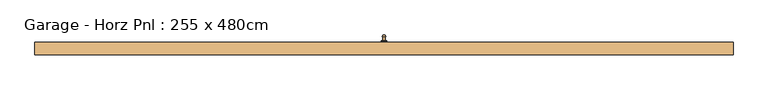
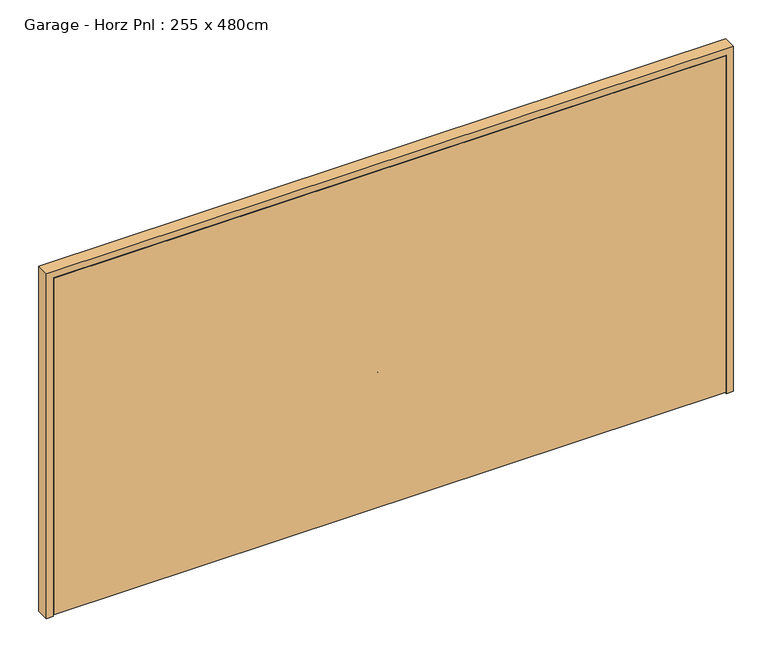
"""IFC4 building model written with IfcOpenShell, lengths in millimetres: door geometry, Garage - Horz Pnl : 255 x 480cm."""

import ifcopenshell
import ifcopenshell.guid

model = None  # the IFC model being written
_history = None  # IfcOwnerHistory: only IFC2X3 demands one
_inside = {}  # id of a spatial element -> (the spatial element, [elements in it])
_under = {}  # id of a project, library or spatial element -> (it, [spatial elements below it])
_declared = {}  # id of a project -> (the project, [libraries it declares])
_typed = {}  # id of a type object -> (the type object, [elements of that type])
_made_of = {}  # id of a material, layer set ... -> (it, [elements and type objects made of it])


def new_model(schema):
    """Start an empty IFC model of exactly this schema.

    Asked for "IFC4X3", IfcOpenShell would pick the latest addendum, in which some entities
    have other attributes; the version numbers below select the first issue.
    IFC2X3 requires an IfcOwnerHistory on every rooted entity: one is made here for all.
    """
    global model, _history
    if schema == "IFC4X3":
        model = ifcopenshell.file(schema_version=(4, 3, 0, 0))
    else:
        model = ifcopenshell.file(schema=schema)
    _inside.clear()
    _under.clear()
    _declared.clear()
    _typed.clear()
    _made_of.clear()
    _history = None
    if model.schema == "IFC2X3":
        org = make("IfcOrganization", Name="unknown")
        user = make(
            "IfcPersonAndOrganization",
            ThePerson=make("IfcPerson", FamilyName="unknown"),
            TheOrganization=org,
        )
        app = make(
            "IfcApplication",
            ApplicationDeveloper=org,
            Version="unknown",
            ApplicationFullName="unknown",
            ApplicationIdentifier="unknown",
        )
        _history = make(
            "IfcOwnerHistory",
            OwningUser=user,
            OwningApplication=app,
            ChangeAction="ADDED",
            CreationDate=0,
        )
    return model


def make(cls, **values):
    """One entity of the class cls with the attributes given. An attribute that is None is left unset."""
    return model.create_entity(
        cls, **{name: value for name, value in values.items() if value is not None}
    )


def rooted(cls, **values):
    """An entity with a GlobalId (a new one), such as an element, a storey or a relation."""
    return make(cls, GlobalId=ifcopenshell.guid.new(), OwnerHistory=_history, **values)


def si_unit(unit_type, name, prefix=None):
    """IfcSIUnit, for example si_unit("LENGTHUNIT", "METRE", prefix="MILLI")."""
    return make("IfcSIUnit", UnitType=unit_type, Prefix=prefix, Name=name)


def assignment(units):
    """IfcUnitAssignment: the units of a project."""
    return None if units is None else make("IfcUnitAssignment", Units=units)


def point(xyz):
    """IfcCartesianPoint."""
    return None if xyz is None else make("IfcCartesianPoint", Coordinates=xyz)


def direction(xyz):
    """IfcDirection."""
    return None if xyz is None else make("IfcDirection", DirectionRatios=xyz)


def frame(location, z_axis=None, x_axis=None):
    """IfcAxis2Placement3D, a coordinate frame: its origin and axes. An axis left out is left unset."""
    return make(
        "IfcAxis2Placement3D",
        Location=point(location),
        Axis=direction(z_axis),
        RefDirection=direction(x_axis),
    )


def frame_2d(location, x_axis=None):
    """IfcAxis2Placement2D, a coordinate frame in the plane: its origin and x axis."""
    return make(
        "IfcAxis2Placement2D", Location=point(location), RefDirection=direction(x_axis)
    )


def origin():
    """The frame at (0, 0, 0) with its axes left unset."""
    return frame((0.0, 0.0, 0.0))


def place(relative_to, where):
    """IfcLocalPlacement: puts the frame where relative to a parent placement (None: the world)."""
    return make(
        "IfcLocalPlacement", PlacementRelTo=relative_to, RelativePlacement=where
    )


def context(
    kind, dimensions, precision=None, world=None, true_north=None, identifier=None
):
    """IfcGeometricRepresentationContext, for example the 3D "Model" context."""
    return make(
        "IfcGeometricRepresentationContext",
        ContextIdentifier=identifier,
        ContextType=kind,
        CoordinateSpaceDimension=dimensions,
        Precision=precision,
        WorldCoordinateSystem=world,
        TrueNorth=true_north,
    )


def project(units=None, contexts=None):
    """IfcProject with its units and contexts."""
    return rooted(
        "IfcProject",
        Name="project",
        RepresentationContexts=contexts,
        UnitsInContext=assignment(units),
    )


def spatial(cls, under=None, at=None, **own):
    """A site, building, storey or space (cls), placed at a placement, below another one or the project."""
    s = rooted(cls, ObjectPlacement=at, **own)
    if under is not None:
        _under.setdefault(under.id(), (under, []))[1].append(s)
    return s


def polyline(points):
    """IfcPolyline through the points."""
    return make("IfcPolyline", Points=[point(p) for p in points])


def circle_curve(where, radius):
    """IfcCircle in the frame where."""
    return make("IfcCircle", Position=where, Radius=radius)


def ellipse_curve(where, semi_axis1, semi_axis2):
    """IfcEllipse in the frame where."""
    return make(
        "IfcEllipse", Position=where, SemiAxis1=semi_axis1, SemiAxis2=semi_axis2
    )


def trimmed(basis, trim1, trim2, sense, master):
    """IfcTrimmedCurve: the piece of a basis curve between two trims."""
    return make(
        "IfcTrimmedCurve",
        BasisCurve=basis,
        Trim1=trim1,
        Trim2=trim2,
        SenseAgreement=sense,
        MasterRepresentation=master,
    )


def segment(curve, same_sense, transition):
    """IfcCompositeCurveSegment."""
    return make(
        "IfcCompositeCurveSegment",
        Transition=transition,
        SameSense=same_sense,
        ParentCurve=curve,
    )


def composite_curve(segments, self_intersect=None):
    """IfcCompositeCurve: segments joined end to end."""
    return make("IfcCompositeCurve", Segments=segments, SelfIntersect=self_intersect)


def outline(outer, holes=None, kind="AREA"):
    """IfcArbitraryClosedProfileDef: a profile drawn as a closed curve; with holes, ...WithVoids."""
    if holes is None:
        return make("IfcArbitraryClosedProfileDef", ProfileType=kind, OuterCurve=outer)
    return make(
        "IfcArbitraryProfileDefWithVoids",
        ProfileType=kind,
        OuterCurve=outer,
        InnerCurves=holes,
    )


def extrude(swept, where, along, depth):
    """IfcExtrudedAreaSolid: the profile swept, set in the frame where, extruded along a direction by depth."""
    return make(
        "IfcExtrudedAreaSolid",
        SweptArea=swept,
        Position=where,
        ExtrudedDirection=direction(along),
        Depth=depth,
    )


def faces_of(points, faces, orient=None, outer=None):
    """IfcFace entities. A face is a list of loops; a loop is a list of indices into points, from 0.

    orient and outer hold one flag for each loop. By default every Orientation is true, the
    first loop of a face is its IfcFaceOuterBound and the others are IfcFaceBound.
    """
    made = []
    for i, loops in enumerate(faces):
        bounds = []
        for j, loop in enumerate(loops):
            is_outer = j == 0 if outer is None else outer[i][j]
            bounds.append(
                make(
                    "IfcFaceOuterBound" if is_outer else "IfcFaceBound",
                    Bound=make("IfcPolyLoop", Polygon=[points[k] for k in loop]),
                    Orientation=True if orient is None else orient[i][j],
                )
            )
        made.append(make("IfcFace", Bounds=bounds))
    return made


def faceted_brep(points, faces, orient=None, outer=None, voids=None):
    """IfcFacetedBrep: a solid bounded by flat faces; with voids (closed shells), ...WithVoids."""
    shared = [point(p) for p in points]
    hull = make("IfcClosedShell", CfsFaces=faces_of(shared, faces, orient, outer))
    if voids is None:
        return make("IfcFacetedBrep", Outer=hull)
    return make(
        "IfcFacetedBrepWithVoids",
        Outer=hull,
        Voids=[
            make(cls, CfsFaces=faces_of(shared, fs, o, b)) for cls, fs, o, b in voids
        ],
    )


def shape(context_of_items, identifier, shape_type, items):
    """IfcShapeRepresentation: the items that make up one representation, for example the "Body"."""
    return make(
        "IfcShapeRepresentation",
        ContextOfItems=context_of_items,
        RepresentationIdentifier=identifier,
        RepresentationType=shape_type,
        Items=items,
    )


def source(mapping_origin, context_of_items, identifier, shape_type, items):
    """IfcRepresentationMap: a shape defined once, which mapped items show again and again."""
    return make(
        "IfcRepresentationMap",
        MappingOrigin=mapping_origin,
        MappedRepresentation=shape(context_of_items, identifier, shape_type, items),
    )


def transform(
    local_origin,
    x_axis=None,
    y_axis=None,
    z_axis=None,
    scale=None,
    scale2=None,
    scale3=None,
    uniform=True,
):
    """IfcCartesianTransformationOperator3D, or its non-uniform kind. x_axis, y_axis, z_axis: its Axis1, 2, 3."""
    if uniform:
        return make(
            "IfcCartesianTransformationOperator3D",
            Axis1=direction(x_axis),
            Axis2=direction(y_axis),
            LocalOrigin=point(local_origin),
            Scale=scale,
            Axis3=direction(z_axis),
        )
    return make(
        "IfcCartesianTransformationOperator3DnonUniform",
        Axis1=direction(x_axis),
        Axis2=direction(y_axis),
        LocalOrigin=point(local_origin),
        Scale=scale,
        Axis3=direction(z_axis),
        Scale2=scale2,
        Scale3=scale3,
    )


def mapped(mapping_source, mapping_target):
    """IfcMappedItem: shows the shape of a source again, moved by a transform."""
    return make(
        "IfcMappedItem", MappingSource=mapping_source, MappingTarget=mapping_target
    )


def made_of(thing, what):
    """Note that an element or type object is made of a material, layer set ...; save() writes the relation."""
    if what is not None:
        _made_of.setdefault(what.id(), (what, []))[1].append(thing)
    return thing


def element(
    cls,
    number,
    at=None,
    inside=None,
    cuts=None,
    type_object=None,
    material=None,
    context=None,
    identifier="Body",
    shape_type=None,
    held_by="IfcProductDefinitionShape",
    body=None,
    shapes=None,
    **own,
):
    """One element of the class cls, such as IfcWall. Its Tag is "e" and its number.

    at: its placement. inside: the storey or other place that contains it. cuts: it is an
    opening in that element (IfcRelVoidsElement). A single representation is given by context,
    identifier, shape_type and body (its items); several are given by shapes. held_by: the class
    of the entity that holds the representations. save() writes the other relations.
    """
    e = rooted(cls, Tag="e%d" % number, ObjectPlacement=at, **own)
    if body is not None:
        shapes = [shape(context, identifier, shape_type, body)]
    if shapes is not None:
        e.Representation = make(held_by, Representations=shapes)
    if inside is not None:
        _inside.setdefault(inside.id(), (inside, []))[1].append(e)
    if cuts is not None:
        rooted(
            "IfcRelVoidsElement", RelatingBuildingElement=cuts, RelatedOpeningElement=e
        )
    if type_object is not None:
        _typed.setdefault(type_object.id(), (type_object, []))[1].append(e)
    return made_of(e, material)


def aggregate(whole, parts):
    """IfcRelAggregates: a whole, such as a stair, and the parts it consists of."""
    return rooted("IfcRelAggregates", RelatingObject=whole, RelatedObjects=parts)


def save(model, path):
    """Write the relations noted so far, then the file.

    IfcRelAggregates (storeys below a building ...), IfcRelContainedInSpatialStructure (elements
    in a storey), IfcRelDefinesByType, IfcRelAssociatesMaterial and IfcRelDeclares: one each for
    every whole, place, type object, material and project.
    """
    for whole, parts in _under.values():
        aggregate(whole, parts)
    for where, things in _inside.values():
        rooted(
            "IfcRelContainedInSpatialStructure",
            RelatedElements=things,
            RelatingStructure=where,
        )
    for kind, things in _typed.values():
        rooted("IfcRelDefinesByType", RelatedObjects=things, RelatingType=kind)
    for what, things in _made_of.values():
        rooted("IfcRelAssociatesMaterial", RelatedObjects=things, RelatingMaterial=what)
    for by, libraries in _declared.values():
        rooted("IfcRelDeclares", RelatingContext=by, RelatedDefinitions=libraries)
    model.write(path)


def plane_surface(at):
    """IfcPlane: the flat surface through the origin of the frame at, square to its z axis."""
    return make("IfcPlane", Position=at)


def revolved_surface(curve, axis_point, axis_direction):
    """IfcSurfaceOfRevolution: the curve turned about the line through axis_point along axis_direction."""
    return make(
        "IfcSurfaceOfRevolution",
        SweptCurve=make("IfcArbitraryOpenProfileDef", ProfileType="CURVE", Curve=curve),
        AxisPosition=make("IfcAxis1Placement", Location=point(axis_point), Axis=direction(axis_direction)),
    )


def advanced_brep(points, edges, surfaces, faces):
    """IfcAdvancedBrep: a solid bounded by faces that lie on surfaces and meet in shared edges.

    An edge is (start, end): straight between two places in points (the first is 0);
    or (start, end, curve); or (start, end, curve, False) where it runs against its curve.
    A face is (place in surfaces, loops), or (place, loops, False) where it looks against
    its surface's normal. A loop lists edges by number (the first is 1), with a minus sign
    where the edge is run from its end to its start. The first loop is the outer one.
    """
    corners = [point(p) for p in points]
    vertices = [make("IfcVertexPoint", VertexGeometry=c) for c in corners]
    made = []
    for start, end, *more in edges:
        made.append(
            make(
                "IfcEdgeCurve",
                EdgeStart=vertices[start],
                EdgeEnd=vertices[end],
                EdgeGeometry=more[0] if more else make("IfcPolyline", Points=[corners[start], corners[end]]),
                SameSense=more[1] if len(more) > 1 else True,
            )
        )
    hull = []
    for where, loops, *sense in faces:
        bounds = []
        for j, loop in enumerate(loops):
            ring = [make("IfcOrientedEdge", EdgeElement=made[abs(k) - 1], Orientation=k > 0) for k in loop]
            bounds.append(
                make(
                    "IfcFaceOuterBound" if j == 0 else "IfcFaceBound",
                    Bound=make("IfcEdgeLoop", EdgeList=ring),
                    Orientation=True,
                )
            )
        hull.append(make("IfcAdvancedFace", Bounds=bounds, FaceSurface=surfaces[where], SameSense=sense[0] if sense else True))
    return make("IfcAdvancedBrep", Outer=make("IfcClosedShell", CfsFaces=hull))


def garage_horz_pnl_255_x_480cm_18ad5431(model_context):
    return source(origin(), model_context, "Body", "SolidModel", [
        extrude(outline(composite_curve([segment(trimmed(circle_curve(frame_2d((900.0, 1264.5)), 20.0), [point((900.0, 1244.5))], [point((900.0, 1284.5))], False, "CARTESIAN"), True, "CONTINUOUS"), segment(trimmed(circle_curve(frame_2d((900.0, 1264.5)), 20.0), [point((900.0, 1284.5))], [point((900.0, 1244.5))], False, "CARTESIAN"), True, "CONTINUOUS")], self_intersect=False)), frame((0.0, 80.0, 0.0), z_axis=(0.0, 1.0, 0.0), x_axis=(0.0, 0.0, 1.0)), (0.0, 0.0, 1.0), 3.0),
        advanced_brep(
        [(1264.5, 113.0, 843.6641808), (1266.3492572, 113.0, 845.2113613), (1275.4509795, 113.0, 899.2132014), (1266.0, 113.0, 908.6641808), (1264.5, 113.0, 908.6641808), (1263.0, 113.0, 908.6641808), (1253.5490205, 113.0, 899.2132014), (1262.6507428, 113.0, 845.2113613)],
        [
            (0, 1, circle_curve(frame((1264.1345333, 113.0, 845.979749), z_axis=(0.0, -1.0, 0.0), x_axis=(0.0, 0.0, -1.0)), 2.3442316)),
            (1, 2, circle_curve(frame((1110.6997375, 113.0, 899.2132014), z_axis=(0.0, -1.0, 0.0), x_axis=(0.0, 0.0, -1.0)), 164.7512419)),
            (2, 3, circle_curve(frame((1266.0, 113.0, 899.2132014), z_axis=(0.0, -1.0, 0.0), x_axis=(0.0, 0.0, -1.0)), 9.4509795)),
            (3, 4),
            (4, 0),
            (4, 5),
            (5, 6, circle_curve(frame((1263.0, 113.0, 899.2132014), z_axis=(0.0, -1.0, 0.0), x_axis=(0.0, 0.0, -1.0)), 9.4509795)),
            (6, 7, circle_curve(frame((1418.3002625, 113.0, 899.2132014), z_axis=(0.0, -1.0, 0.0), x_axis=(0.0, 0.0, -1.0)), 164.7512419)),
            (7, 0, circle_curve(frame((1264.8654667, 113.0, 845.979749), z_axis=(0.0, -1.0, 0.0), x_axis=(0.0, 0.0, -1.0)), 2.3442316)),
            (7, 1, circle_curve(frame((1264.5, 113.0, 845.2113613), z_axis=(0.0, 0.0, -1.0), x_axis=(1.0, 0.0, 0.0)), 1.8492572)),
            (6, 2, circle_curve(frame((1264.5, 113.0, 899.2132014), z_axis=(0.0, 0.0, -1.0), x_axis=(1.0, 0.0, 0.0)), 10.9509795)),
            (5, 3, circle_curve(frame((1264.5, 113.0, 908.6641808), z_axis=(0.0, 0.0, -1.0), x_axis=(1.0, 0.0, 0.0)), 1.5)),
        ],
        [
            plane_surface(frame((1264.5, 113.0, 853.0919868), z_axis=(0.0, -1.0, 0.0), x_axis=(1.0, 0.0, 0.0))),
            plane_surface(frame((1264.5, 113.0, 853.0919868), z_axis=(0.0, -1.0, 0.0), x_axis=(-1.0, 0.0, 0.0))),
            revolved_surface(trimmed(ellipse_curve(frame((1264.1345333, 113.0, 845.979749), z_axis=(0.0, -1.0, 0.0), x_axis=(0.0, 0.0, -1.0)), 2.3442316, 2.3442316), [point((1264.5, 113.0, 843.6641808))], [point((1266.3492572, 113.0, 845.2113613))], True, "CARTESIAN"), (1264.5, 113.0, 853.0919868), (0.0, 0.0, 1.0)),
            revolved_surface(trimmed(ellipse_curve(frame((1110.6997375, 113.0, 899.2132014), z_axis=(0.0, -1.0, 0.0), x_axis=(0.0, 0.0, -1.0)), 164.7512419, 164.7512419), [point((1266.3492572, 113.0, 845.2113613))], [point((1275.4509795, 113.0, 899.2132014))], True, "CARTESIAN"), (1264.5, 113.0, 853.0919868), (0.0, 0.0, 1.0)),
            revolved_surface(trimmed(ellipse_curve(frame((1266.0, 113.0, 899.2132014), z_axis=(0.0, -1.0, 0.0), x_axis=(0.0, 0.0, -1.0)), 9.4509795, 9.4509795), [point((1275.4509795, 113.0, 899.2132014))], [point((1266.0, 113.0, 908.6641808))], True, "CARTESIAN"), (1264.5, 113.0, 853.0919868), (0.0, 0.0, 1.0)),
            plane_surface(frame((1264.5, 113.0, 908.6641808), z_axis=(0.0, 0.0, 1.0), x_axis=(1.0, 0.0, 0.0))),
        ],
        [
            (0, [[1, 2, 3, 4, 5]]),
            (1, [[6, 7, 8, 9, -5]]),
            (2, [[10, -1, -9]]),
            (3, [[11, -2, -10, -8]]),
            (4, [[12, -3, -11, -7]]),
            (5, [[-4, -12, -6]]),
        ],
    ),
        extrude(outline(composite_curve([segment(trimmed(circle_curve(frame_2d((900.0, 1264.5)), 7.0), [point((900.0, 1271.5))], [point((900.0, 1257.5))], False, "CARTESIAN"), True, "CONTINUOUS"), segment(trimmed(circle_curve(frame_2d((900.0, 1264.5)), 7.0), [point((900.0, 1257.5))], [point((900.0, 1271.5))], False, "CARTESIAN"), True, "CONTINUOUS")], self_intersect=False)), frame((0.0, 83.0, 0.0), z_axis=(0.0, 1.0, 0.0), x_axis=(0.0, 0.0, 1.0)), (0.0, 0.0, 1.0), 30.0),
        faceted_brep([(3594.0, 75.0, 0.0), (3664.5, 75.0, 0.0), (3664.5, -14.0, 0.0), (3616.0, -14.0, 0.0), (3616.0, 33.0, 0.0), (3594.0, 33.0, 0.0), (3594.0, 75.0, 2479.5), (-1065.0, 75.0, 2479.5), (-1065.0, 75.0, 0.0), (-1135.5, 75.0, 0.0), (-1135.5, 75.0, 2550.0), (3664.5, 75.0, 2550.0), (3664.5, -14.0, 2550.0), (-1135.5, -14.0, 2550.0), (-1135.5, -14.0, 0.0), (-1087.0, -14.0, 0.0), (-1087.0, -14.0, 2501.5), (3616.0, -14.0, 2501.5), (3616.0, 33.0, 2501.5), (-1087.0, 33.0, 2501.5), (-1087.0, 33.0, 0.0), (-1065.0, 33.0, 0.0), (-1065.0, 33.0, 2479.5), (3594.0, 33.0, 2479.5)], [[[0, 1, 2, 3, 4, 5]], [[1, 0, 6, 7, 8, 9, 10, 11]], [[2, 1, 11, 12]], [[3, 2, 12, 13, 14, 15, 16, 17]], [[4, 3, 17, 18]], [[5, 4, 18, 19, 20, 21, 22, 23]], [[0, 5, 23, 6]], [[7, 22, 21, 8]], [[8, 21, 20, 15, 14, 9]], [[13, 10, 9, 14]], [[19, 16, 15, 20]], [[12, 11, 10, 13]], [[18, 17, 16, 19]], [[6, 23, 22, 7]]]),
        extrude(outline(polyline([(3613.0, -14.0), (-1084.0, -14.0), (-1084.0, 30.0), (3613.0, 30.0), (3613.0, -14.0)])), frame((0.0, 0.0, 10.0), z_axis=(0.0, 0.0, 1.0), x_axis=(1.0, 0.0, 0.0)), (0.0, 0.0, 1.0), 2488.5),
    ])


if __name__ == "__main__":
    model = new_model("IFC4")
    model_context = context("Model", 3, world=origin())
    ifc_project = project(units=[si_unit("LENGTHUNIT", "METRE", prefix="MILLI")], contexts=[model_context])
    site = spatial("IfcSite", under=ifc_project)
    building = spatial("IfcBuilding", under=site)
    placement = place(None, origin())
    garage_horz_pnl_255_x_480cm_shape = garage_horz_pnl_255_x_480cm_18ad5431(model_context)
    element("IfcDoor", 1, ObjectType="Garage - Horz Pnl : 255 x 480cm", at=placement, inside=building, context=model_context, shape_type="MappedRepresentation", body=[
        mapped(garage_horz_pnl_255_x_480cm_shape, transform((0.0, 0.0, 0.0), x_axis=(1.0, 0.0, 0.0), y_axis=(0.0, 1.0, 0.0), z_axis=(0.0, 0.0, 1.0))),
    ])
    save(model, "model.ifc")
